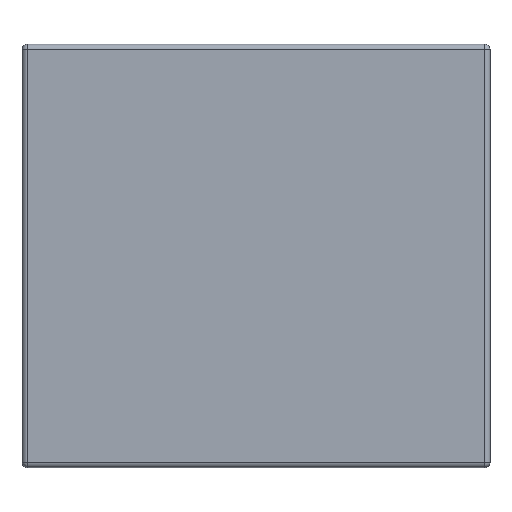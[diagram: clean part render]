
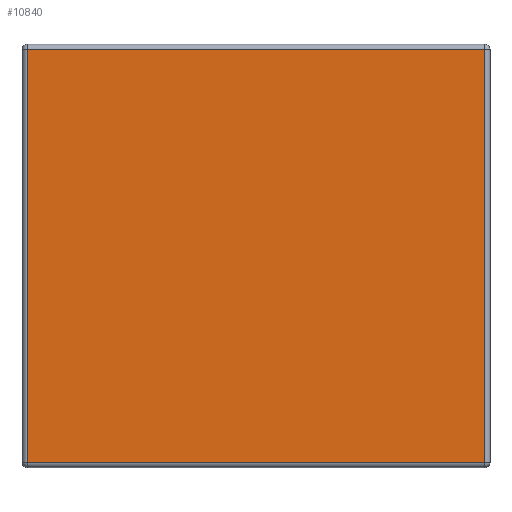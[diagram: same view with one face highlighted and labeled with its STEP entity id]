
A CAD part, front view. The second image highlights one B-rep face of the part: STEP entity #10840.
In plain terms, the highlighted planar face has unit normal (0, -1, 0).
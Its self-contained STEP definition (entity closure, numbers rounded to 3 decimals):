
#406 = DIRECTION ( 'NONE',  ( 0., 0., -1. ) ) ;
#1620 = LINE ( 'NONE', #6350, #11977 ) ;
#1959 = DIRECTION ( 'NONE',  ( 1., 0., 0. ) ) ;
#2025 = DIRECTION ( 'NONE',  ( -1., 0., 0. ) ) ;
#3425 = EDGE_CURVE ( 'NONE', #9440, #13111, #1620, .T. ) ;
#3673 = AXIS2_PLACEMENT_3D ( 'NONE', #11072, #7312, #6145 ) ;
#3824 = CARTESIAN_POINT ( 'NONE',  ( -102.6, 0., -92.6 ) ) ;
#3895 = CARTESIAN_POINT ( 'NONE',  ( -102.6, 0., 0. ) ) ;
#4303 = ORIENTED_EDGE ( 'NONE', *, *, #13353, .T. ) ;
#5196 = DIRECTION ( 'NONE',  ( 0., 0., 1. ) ) ;
#5352 = VERTEX_POINT ( 'NONE', #3824 ) ;
#5453 = EDGE_LOOP ( 'NONE', ( #4303, #6377, #5748, #12900 ) ) ;
#5748 = ORIENTED_EDGE ( 'NONE', *, *, #9663, .T. ) ;
#5833 = LINE ( 'NONE', #8324, #7629 ) ;
#6145 = DIRECTION ( 'NONE',  ( 0., 0., -1. ) ) ;
#6221 = PLANE ( 'NONE',  #3673 ) ;
#6350 = CARTESIAN_POINT ( 'NONE',  ( 102.6, 0., 95. ) ) ;
#6377 = ORIENTED_EDGE ( 'NONE', *, *, #3425, .T. ) ;
#7312 = DIRECTION ( 'NONE',  ( 0., -1., 0. ) ) ;
#7629 = VECTOR ( 'NONE', #2025, 1000. ) ;
#8096 = EDGE_CURVE ( 'NONE', #9319, #5352, #14575, .T. ) ;
#8263 = CARTESIAN_POINT ( 'NONE',  ( -102.6, 0., 92.6 ) ) ;
#8324 = CARTESIAN_POINT ( 'NONE',  ( -105., 0., 92.6 ) ) ;
#9046 = VECTOR ( 'NONE', #406, 1000. ) ;
#9319 = VERTEX_POINT ( 'NONE', #8263 ) ;
#9440 = VERTEX_POINT ( 'NONE', #12246 ) ;
#9663 = EDGE_CURVE ( 'NONE', #13111, #9319, #5833, .T. ) ;
#10840 = ADVANCED_FACE ( 'NONE', ( #13460 ), #6221, .T. ) ;
#11072 = CARTESIAN_POINT ( 'NONE',  ( 0., 0., 0. ) ) ;
#11977 = VECTOR ( 'NONE', #5196, 1000. ) ;
#12246 = CARTESIAN_POINT ( 'NONE',  ( 102.6, 0., -92.6 ) ) ;
#12626 = CARTESIAN_POINT ( 'NONE',  ( 0., 0., -92.6 ) ) ;
#12770 = LINE ( 'NONE', #12626, #15281 ) ;
#12868 = CARTESIAN_POINT ( 'NONE',  ( 102.6, 0., 92.6 ) ) ;
#12900 = ORIENTED_EDGE ( 'NONE', *, *, #8096, .T. ) ;
#13111 = VERTEX_POINT ( 'NONE', #12868 ) ;
#13353 = EDGE_CURVE ( 'NONE', #5352, #9440, #12770, .T. ) ;
#13460 = FACE_OUTER_BOUND ( 'NONE', #5453, .T. ) ;
#14575 = LINE ( 'NONE', #3895, #9046 ) ;
#15281 = VECTOR ( 'NONE', #1959, 1000. ) ;
